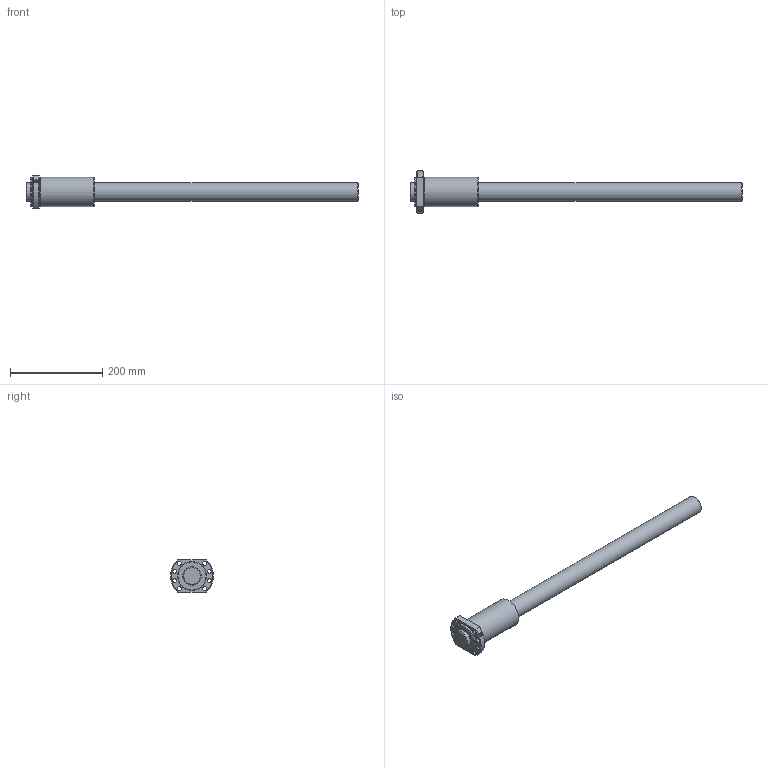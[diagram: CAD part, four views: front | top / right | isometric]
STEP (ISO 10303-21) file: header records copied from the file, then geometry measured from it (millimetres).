
FILE_DESCRIPTION(/* description */ ('STEP AP214'),/* implementation_level */ '2;1');
FILE_NAME(/* name */ 'EPB4010-8RRG0+720LC0(562G000)_rev',/* time_stamp */ '2023-08-03T13:30:19+02:00',/* author */ ('License CC BY-ND 4.0'),/* organization */ ('CADENAS'),/* preprocessor_version */ 'ST-DEVELOPER v19.3',/* originating_system */ 'PARTsolutions',/* authorisation */ ' ');
FILE_SCHEMA (('AUTOMOTIVE_DESIGN {1 0 10303 214 3 1 1}'));
Length unit declared in the file: millimetre
Products named in the file (3): EPB4010-8RRG0+720LC0(562G000)_rev; EPB 4010-8RR Nut1; EPB 4010-85620 Shaft1
Assembly tree (2 placements, depth 2):
  EPB4010-8RRG0+720LC0(562G000)_rev
    EPB 4010-8RR Nut1
    EPB 4010-85620 Shaft1
Bounding box: 720 x 93 x 70 mm (x, y, z)
Volume: 1189271.9 mm3; surface area: 150415.7 mm2
Topology: 2 solids, 2 shells, 34 faces, 77 edges, 50 vertices
Faces by surface type: cylinder 16, cone 9, plane 9
Full cylindrical faces by diameter (mm): 6.647 x1, 9 x8, 40 x2, 59.22 x1, 63 x2
Entity records: 1003 total; most frequent: CARTESIAN_POINT 187, DIRECTION 160, ORIENTED_EDGE 114, EDGE_LOOP 76, FACE_BOUND 76, AXIS2_PLACEMENT_3D 76, EDGE_CURVE 57, VERTEX_POINT 49
